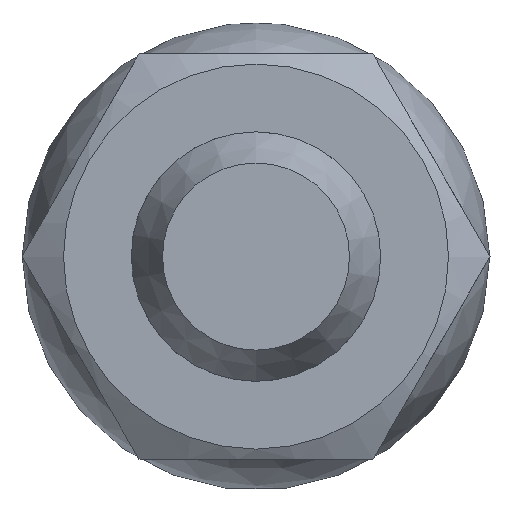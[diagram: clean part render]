
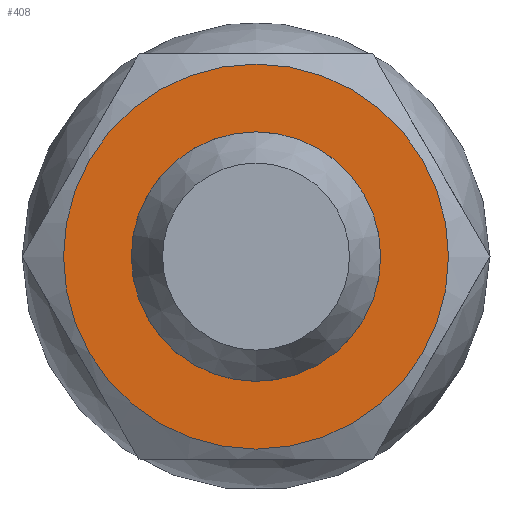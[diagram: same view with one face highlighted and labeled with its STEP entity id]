
A CAD part, left-side view. The second image highlights one B-rep face of the part: STEP entity #408.
In plain terms, the highlighted planar face has unit normal (-1, 0, 0) as drawn and (0, 0, 1) by its records, which use the part's own axes.
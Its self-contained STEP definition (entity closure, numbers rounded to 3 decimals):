
#408=ADVANCED_FACE('',(#692,#694),#696,.T.);
#692=FACE_BOUND('',#693,.T.);
#693=EDGE_LOOP('',(#864,#865));
#694=FACE_BOUND('',#695,.T.);
#695=EDGE_LOOP('',(#866));
#696=PLANE('',#697);
#697=AXIS2_PLACEMENT_3D('',#698,#699,#700);
#698=CARTESIAN_POINT('',(0.,0.,6.8));
#699=DIRECTION('',(0.,0.,1.));
#700=DIRECTION('',(1.,0.,0.));
#864=ORIENTED_EDGE('',*,*,#945,.T.);
#865=ORIENTED_EDGE('',*,*,#944,.T.);
#866=ORIENTED_EDGE('',*,*,#946,.T.);
#944=EDGE_CURVE('',#1075,#1076,#1077,.F.);
#945=EDGE_CURVE('',#1076,#1075,#1078,.F.);
#946=EDGE_CURVE('',#1079,#1079,#1080,.F.);
#1075=VERTEX_POINT('',#2154);
#1076=VERTEX_POINT('',#2155);
#1077=CIRCLE('',#2156,6.175);
#1078=CIRCLE('',#2160,6.175);
#1079=VERTEX_POINT('',#2164);
#1080=CIRCLE('',#2165,4.);
#2154=CARTESIAN_POINT('',(-3.087,-5.348,6.8));
#2155=CARTESIAN_POINT('',(0.,6.175,6.8));
#2156=AXIS2_PLACEMENT_3D('',#2157,#2158,#2159);
#2157=CARTESIAN_POINT('',(0.,0.,6.8));
#2158=DIRECTION('',(0.,0.,-1.));
#2159=DIRECTION('',(0.,1.,0.));
#2160=AXIS2_PLACEMENT_3D('',#2161,#2162,#2163);
#2161=CARTESIAN_POINT('',(0.,0.,6.8));
#2162=DIRECTION('',(0.,0.,-1.));
#2163=DIRECTION('',(-0.5,-0.866,0.));
#2164=CARTESIAN_POINT('',(4.,0.,6.8));
#2165=AXIS2_PLACEMENT_3D('',#2166,#2167,#2168);
#2166=CARTESIAN_POINT('',(0.,0.,6.8));
#2167=DIRECTION('',(0.,0.,1.));
#2168=DIRECTION('',(1.,0.,0.));
